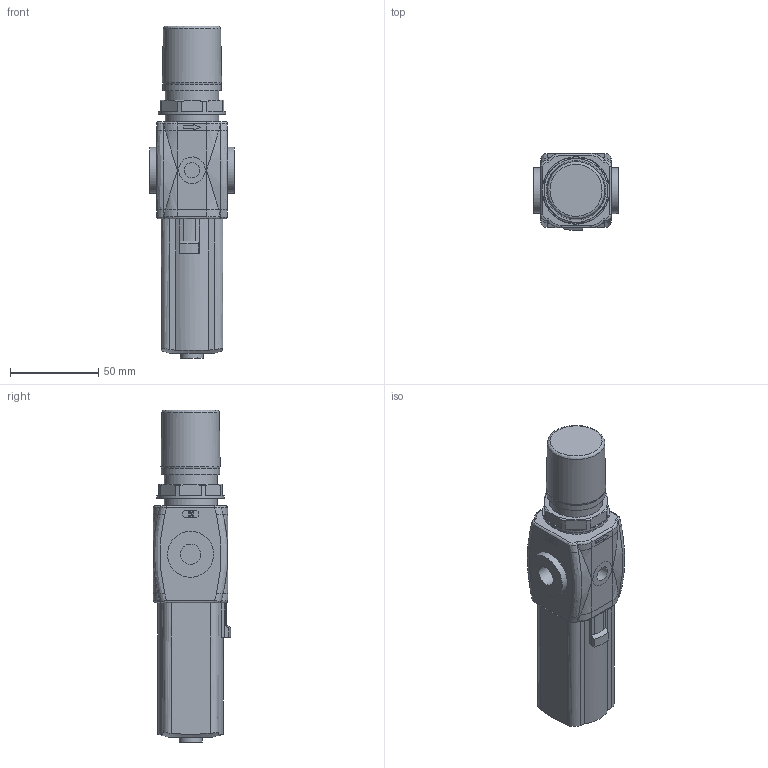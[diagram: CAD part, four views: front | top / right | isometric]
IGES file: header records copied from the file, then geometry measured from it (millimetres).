
Global section: file name: #171BE##S; native system: Autodesk Inventor 2014; preprocessor: unknown; author: M. Valota; organization: Pneumax S.p.A.; date: 20140522.100418; units: millimetre
Bounding box: 48 x 43.6 x 187.6 mm (x, y, z)
Volume: 225184.6 mm3; surface area: 33379.9 mm2
Topology: 2 solids, 2 shells, 326 faces, 807 edges, 523 vertices
Faces by surface type: bspline 326
